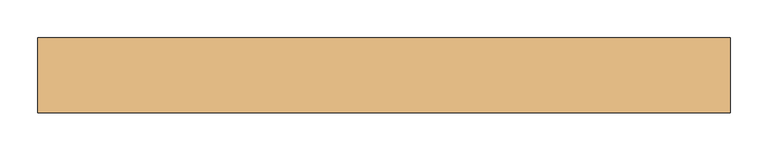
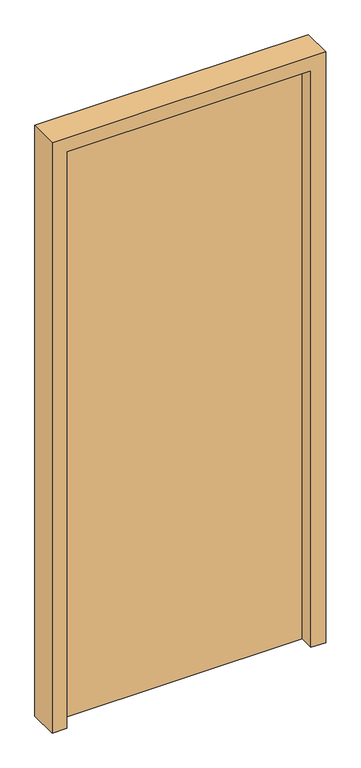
"""IFC4 building model written with IfcOpenShell, lengths in millimetres: door geometry, (Dr)_ДУ(распашная)_1Ст_Прямоугольная : (Вн)_ДГ(0.92х2.1(h))."""

import ifcopenshell
import ifcopenshell.guid

model = None  # the IFC model being written
_history = None  # IfcOwnerHistory: only IFC2X3 demands one
_inside = {}  # id of a spatial element -> (the spatial element, [elements in it])
_under = {}  # id of a project, library or spatial element -> (it, [spatial elements below it])
_declared = {}  # id of a project -> (the project, [libraries it declares])
_typed = {}  # id of a type object -> (the type object, [elements of that type])
_made_of = {}  # id of a material, layer set ... -> (it, [elements and type objects made of it])


def new_model(schema):
    """Start an empty IFC model of exactly this schema.

    Asked for "IFC4X3", IfcOpenShell would pick the latest addendum, in which some entities
    have other attributes; the version numbers below select the first issue.
    IFC2X3 requires an IfcOwnerHistory on every rooted entity: one is made here for all.
    """
    global model, _history
    if schema == "IFC4X3":
        model = ifcopenshell.file(schema_version=(4, 3, 0, 0))
    else:
        model = ifcopenshell.file(schema=schema)
    _inside.clear()
    _under.clear()
    _declared.clear()
    _typed.clear()
    _made_of.clear()
    _history = None
    if model.schema == "IFC2X3":
        org = make("IfcOrganization", Name="unknown")
        user = make(
            "IfcPersonAndOrganization",
            ThePerson=make("IfcPerson", FamilyName="unknown"),
            TheOrganization=org,
        )
        app = make(
            "IfcApplication",
            ApplicationDeveloper=org,
            Version="unknown",
            ApplicationFullName="unknown",
            ApplicationIdentifier="unknown",
        )
        _history = make(
            "IfcOwnerHistory",
            OwningUser=user,
            OwningApplication=app,
            ChangeAction="ADDED",
            CreationDate=0,
        )
    return model


def make(cls, **values):
    """One entity of the class cls with the attributes given. An attribute that is None is left unset."""
    return model.create_entity(
        cls, **{name: value for name, value in values.items() if value is not None}
    )


def rooted(cls, **values):
    """An entity with a GlobalId (a new one), such as an element, a storey or a relation."""
    return make(cls, GlobalId=ifcopenshell.guid.new(), OwnerHistory=_history, **values)


def si_unit(unit_type, name, prefix=None):
    """IfcSIUnit, for example si_unit("LENGTHUNIT", "METRE", prefix="MILLI")."""
    return make("IfcSIUnit", UnitType=unit_type, Prefix=prefix, Name=name)


def assignment(units):
    """IfcUnitAssignment: the units of a project."""
    return None if units is None else make("IfcUnitAssignment", Units=units)


def point(xyz):
    """IfcCartesianPoint."""
    return None if xyz is None else make("IfcCartesianPoint", Coordinates=xyz)


def direction(xyz):
    """IfcDirection."""
    return None if xyz is None else make("IfcDirection", DirectionRatios=xyz)


def frame(location, z_axis=None, x_axis=None):
    """IfcAxis2Placement3D, a coordinate frame: its origin and axes. An axis left out is left unset."""
    return make(
        "IfcAxis2Placement3D",
        Location=point(location),
        Axis=direction(z_axis),
        RefDirection=direction(x_axis),
    )


def origin():
    """The frame at (0, 0, 0) with its axes left unset."""
    return frame((0.0, 0.0, 0.0))


def origin_with_axes():
    """The frame at (0, 0, 0) with the z axis (0, 0, 1) and the x axis (1, 0, 0) written out."""
    return frame((0.0, 0.0, 0.0), z_axis=(0.0, 0.0, 1.0), x_axis=(1.0, 0.0, 0.0))


def place(relative_to, where):
    """IfcLocalPlacement: puts the frame where relative to a parent placement (None: the world)."""
    return make(
        "IfcLocalPlacement", PlacementRelTo=relative_to, RelativePlacement=where
    )


def context(
    kind, dimensions, precision=None, world=None, true_north=None, identifier=None
):
    """IfcGeometricRepresentationContext, for example the 3D "Model" context."""
    return make(
        "IfcGeometricRepresentationContext",
        ContextIdentifier=identifier,
        ContextType=kind,
        CoordinateSpaceDimension=dimensions,
        Precision=precision,
        WorldCoordinateSystem=world,
        TrueNorth=true_north,
    )


def project(units=None, contexts=None):
    """IfcProject with its units and contexts."""
    return rooted(
        "IfcProject",
        Name="project",
        RepresentationContexts=contexts,
        UnitsInContext=assignment(units),
    )


def spatial(cls, under=None, at=None, **own):
    """A site, building, storey or space (cls), placed at a placement, below another one or the project."""
    s = rooted(cls, ObjectPlacement=at, **own)
    if under is not None:
        _under.setdefault(under.id(), (under, []))[1].append(s)
    return s


def polyline(points):
    """IfcPolyline through the points."""
    return make("IfcPolyline", Points=[point(p) for p in points])


def outline(outer, holes=None, kind="AREA"):
    """IfcArbitraryClosedProfileDef: a profile drawn as a closed curve; with holes, ...WithVoids."""
    if holes is None:
        return make("IfcArbitraryClosedProfileDef", ProfileType=kind, OuterCurve=outer)
    return make(
        "IfcArbitraryProfileDefWithVoids",
        ProfileType=kind,
        OuterCurve=outer,
        InnerCurves=holes,
    )


def extrude(swept, where, along, depth):
    """IfcExtrudedAreaSolid: the profile swept, set in the frame where, extruded along a direction by depth."""
    return make(
        "IfcExtrudedAreaSolid",
        SweptArea=swept,
        Position=where,
        ExtrudedDirection=direction(along),
        Depth=depth,
    )


def shape(context_of_items, identifier, shape_type, items):
    """IfcShapeRepresentation: the items that make up one representation, for example the "Body"."""
    return make(
        "IfcShapeRepresentation",
        ContextOfItems=context_of_items,
        RepresentationIdentifier=identifier,
        RepresentationType=shape_type,
        Items=items,
    )


def source(mapping_origin, context_of_items, identifier, shape_type, items):
    """IfcRepresentationMap: a shape defined once, which mapped items show again and again."""
    return make(
        "IfcRepresentationMap",
        MappingOrigin=mapping_origin,
        MappedRepresentation=shape(context_of_items, identifier, shape_type, items),
    )


def transform(
    local_origin,
    x_axis=None,
    y_axis=None,
    z_axis=None,
    scale=None,
    scale2=None,
    scale3=None,
    uniform=True,
):
    """IfcCartesianTransformationOperator3D, or its non-uniform kind. x_axis, y_axis, z_axis: its Axis1, 2, 3."""
    if uniform:
        return make(
            "IfcCartesianTransformationOperator3D",
            Axis1=direction(x_axis),
            Axis2=direction(y_axis),
            LocalOrigin=point(local_origin),
            Scale=scale,
            Axis3=direction(z_axis),
        )
    return make(
        "IfcCartesianTransformationOperator3DnonUniform",
        Axis1=direction(x_axis),
        Axis2=direction(y_axis),
        LocalOrigin=point(local_origin),
        Scale=scale,
        Axis3=direction(z_axis),
        Scale2=scale2,
        Scale3=scale3,
    )


def mapped(mapping_source, mapping_target):
    """IfcMappedItem: shows the shape of a source again, moved by a transform."""
    return make(
        "IfcMappedItem", MappingSource=mapping_source, MappingTarget=mapping_target
    )


def made_of(thing, what):
    """Note that an element or type object is made of a material, layer set ...; save() writes the relation."""
    if what is not None:
        _made_of.setdefault(what.id(), (what, []))[1].append(thing)
    return thing


def element(
    cls,
    number,
    at=None,
    inside=None,
    cuts=None,
    type_object=None,
    material=None,
    context=None,
    identifier="Body",
    shape_type=None,
    held_by="IfcProductDefinitionShape",
    body=None,
    shapes=None,
    **own,
):
    """One element of the class cls, such as IfcWall. Its Tag is "e" and its number.

    at: its placement. inside: the storey or other place that contains it. cuts: it is an
    opening in that element (IfcRelVoidsElement). A single representation is given by context,
    identifier, shape_type and body (its items); several are given by shapes. held_by: the class
    of the entity that holds the representations. save() writes the other relations.
    """
    e = rooted(cls, Tag="e%d" % number, ObjectPlacement=at, **own)
    if body is not None:
        shapes = [shape(context, identifier, shape_type, body)]
    if shapes is not None:
        e.Representation = make(held_by, Representations=shapes)
    if inside is not None:
        _inside.setdefault(inside.id(), (inside, []))[1].append(e)
    if cuts is not None:
        rooted(
            "IfcRelVoidsElement", RelatingBuildingElement=cuts, RelatedOpeningElement=e
        )
    if type_object is not None:
        _typed.setdefault(type_object.id(), (type_object, []))[1].append(e)
    return made_of(e, material)


def aggregate(whole, parts):
    """IfcRelAggregates: a whole, such as a stair, and the parts it consists of."""
    return rooted("IfcRelAggregates", RelatingObject=whole, RelatedObjects=parts)


def save(model, path):
    """Write the relations noted so far, then the file.

    IfcRelAggregates (storeys below a building ...), IfcRelContainedInSpatialStructure (elements
    in a storey), IfcRelDefinesByType, IfcRelAssociatesMaterial and IfcRelDeclares: one each for
    every whole, place, type object, material and project.
    """
    for whole, parts in _under.values():
        aggregate(whole, parts)
    for where, things in _inside.values():
        rooted(
            "IfcRelContainedInSpatialStructure",
            RelatedElements=things,
            RelatingStructure=where,
        )
    for kind, things in _typed.values():
        rooted("IfcRelDefinesByType", RelatedObjects=things, RelatingType=kind)
    for what, things in _made_of.values():
        rooted("IfcRelAssociatesMaterial", RelatedObjects=things, RelatingMaterial=what)
    for by, libraries in _declared.values():
        rooted("IfcRelDeclares", RelatingContext=by, RelatedDefinitions=libraries)
    model.write(path)


def door_987bade7(model_context):
    return source(origin(), model_context, "Body", "SweptSolid", [
        extrude(outline(polyline([(-410.0, 50.0), (410.0, 50.0), (410.0, 0.0), (-410.0, 0.0), (-410.0, 50.0)])), origin_with_axes(), (0.0, 0.0, 1.0), 2050.0),
        extrude(outline(polyline([(0.0, -460.0), (0.0, -410.0), (2050.0, -410.0), (2050.0, 410.0), (0.0, 410.0), (0.0, 460.0), (2100.0, 460.0), (2100.0, -460.0), (0.0, -460.0)])), frame((0.0, -50.0, 0.0), z_axis=(0.0, 1.0, 0.0), x_axis=(0.0, 0.0, 1.0)), (0.0, 0.0, 1.0), 100.0),
    ])


if __name__ == "__main__":
    model = new_model("IFC4")
    model_context = context("Model", 3, world=origin())
    ifc_project = project(units=[si_unit("LENGTHUNIT", "METRE", prefix="MILLI")], contexts=[model_context])
    site = spatial("IfcSite", under=ifc_project)
    building = spatial("IfcBuilding", under=site)
    placement = place(None, origin())
    door_shape = door_987bade7(model_context)
    element("IfcDoor", 1, ObjectType="(Dr)_ДУ(распашная)_1Ст_Прямоугольная : (Вн)_ДГ(0.92х2.1(h))", at=placement, inside=building, context=model_context, shape_type="MappedRepresentation", body=[
        mapped(door_shape, transform((0.0, 0.0, 0.0), x_axis=(1.0, 0.0, 0.0), y_axis=(0.0, 1.0, 0.0), z_axis=(0.0, 0.0, 1.0))),
    ])
    save(model, "model.ifc")
